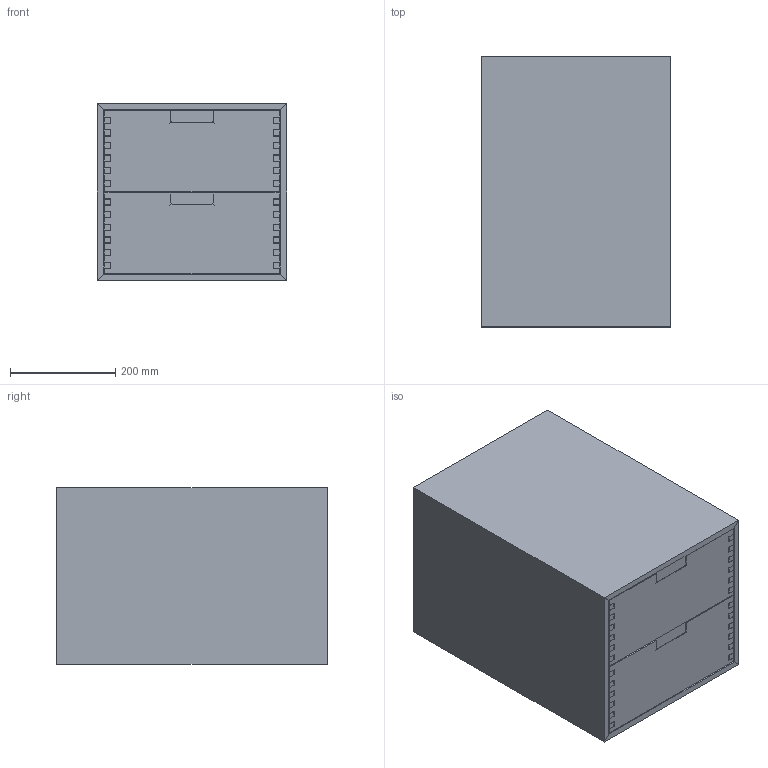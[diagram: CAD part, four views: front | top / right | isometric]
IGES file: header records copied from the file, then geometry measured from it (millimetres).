
Start section: Data from Parasolid IGES Translator 19.0.9, Copyright(c) 2006 Siemens PL M Software. All Rights Reserved.
Global section: file name: noorth-FJ-H 33,5 D 51,2 W 36_6703.igs; native system: By Siemens PLM Incorporated; preprocessor: XPlus GENERIC/IGES 19.0.9; author: Noname; organization: Noname; date: 20200507.120101; units: metre
Bounding box: 360 x 512 x 335 mm (x, y, z)
Volume: 11278607.5 mm3; surface area: 1976550.1 mm2
Topology: 33 solids, 33 shells, 350 faces, 836 edges, 552 vertices
Faces by surface type: plane 330, cylinder 20
